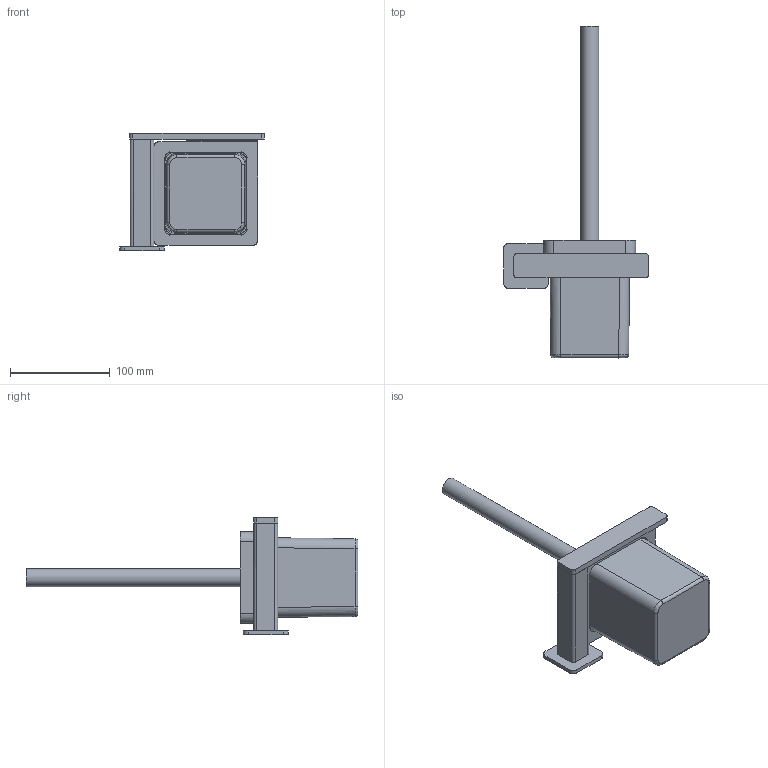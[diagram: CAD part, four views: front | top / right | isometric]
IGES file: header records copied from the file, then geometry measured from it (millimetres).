
Global section: file name: 030b39a7-697a-46f4-81f6-fad27a53ad1d.zip; native system: unknown; preprocessor: unknown; author: unknown; organization: unknown; date: 20200107.145309; units: millimetre
Bounding box: 145.35 x 333 x 118 mm (x, y, z)
Volume: 565459.4 mm3; surface area: 152645.8 mm2
Topology: 5 solids, 5 shells, 175 faces, 438 edges, 276 vertices
Faces by surface type: bspline 175
